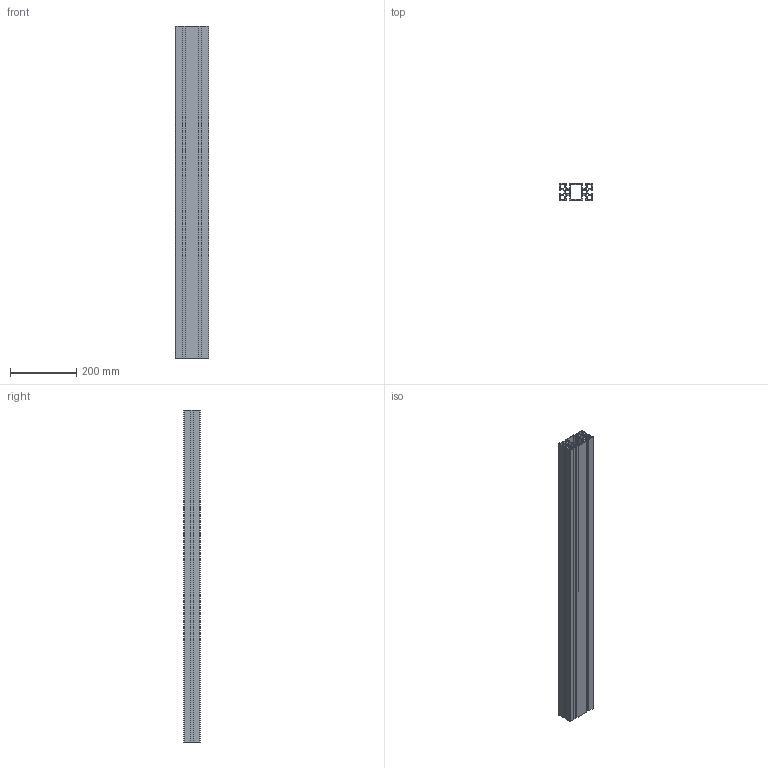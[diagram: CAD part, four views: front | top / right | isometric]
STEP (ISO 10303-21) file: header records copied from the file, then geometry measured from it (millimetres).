
FILE_DESCRIPTION(/* description */ (''),/* implementation_level */ '2;1');
FILE_NAME(/* name */ 'C:\Users\AMS43\Documents\Inventor\AMS\misumi\\X2\30D530EC30FC30E0\X0\_ipt\フレーム_stp\AFS-50100-8.ipt.stp',/* time_stamp */ '2016-10-06T11:44:27+09:00',/* author */ ('AMS43'),/* organization */ (''),/* preprocessor_version */ 'ST-DEVELOPER v15.2',/* originating_system */ 'Autodesk Inventor 2014',/* authorisation */ '');
FILE_SCHEMA (('AUTOMOTIVE_DESIGN { 1 0 10303 214 3 1 1 }'));
Length unit declared in the file: metre
Products named in the file (1): AFS-50100-8
Bounding box: 100 x 50 x 1000 mm (x, y, z)
Volume: 1378522.2 mm3; surface area: 1037039 mm2
Topology: 1 solids, 1 shells, 164 faces, 486 edges, 324 vertices
Faces by surface type: plane 112, cylinder 52
Full cylindrical faces by diameter (mm): 12.5 x2
Entity records: 5523 total; most frequent: CARTESIAN_POINT 973, ORIENTED_EDGE 968, DIRECTION 918, EDGE_CURVE 484, LINE 380, VECTOR 380, VERTEX_POINT 324, AXIS2_PLACEMENT_3D 269
